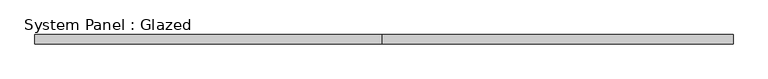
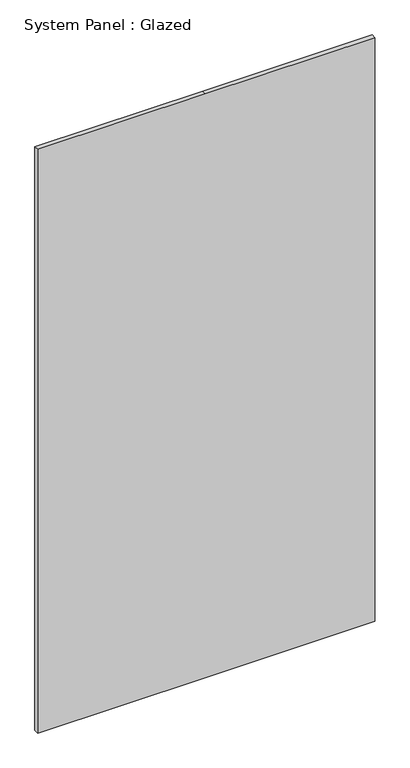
"""IFC4 building model written with IfcOpenShell, lengths in millimetres: plate geometry, System Panel : Glazed."""

from ifc_helpers import new_model, si_unit, frame, origin, place, context, project, spatial, polyline, outline, extrude, source, transform, mapped, element, save


def system_panel_glazed_1df0f2fd(model_context):
    return source(origin(), model_context, "Body", "SweptSolid", [
        extrude(outline(polyline([(0.0, -939.8), (0.0, -5.2916667), (0.0, 939.8), (3437.9973635, 939.8), (3437.9973635, -5.2916667), (3437.9973635, -939.8), (0.0, -939.8)])), frame((0.0, -44.45, 0.0), z_axis=(0.0, 1.0, 0.0), x_axis=(0.0, 0.0, 1.0)), (0.0, 0.0, 1.0), 25.4),
    ])


if __name__ == "__main__":
    model = new_model("IFC4")
    model_context = context("Model", 3, world=origin())
    ifc_project = project(units=[si_unit("LENGTHUNIT", "METRE", prefix="MILLI")], contexts=[model_context])
    site = spatial("IfcSite", under=ifc_project)
    building = spatial("IfcBuilding", under=site)
    placement = place(None, origin())
    system_panel_glazed_shape = system_panel_glazed_1df0f2fd(model_context)
    element("IfcPlate", 1, ObjectType="System Panel : Glazed", at=placement, inside=building, context=model_context, shape_type="MappedRepresentation", body=[
        mapped(system_panel_glazed_shape, transform((0.0, 0.0, 0.0), x_axis=(1.0, 0.0, 0.0), y_axis=(0.0, 1.0, 0.0), z_axis=(0.0, 0.0, 1.0))),
    ])
    save(model, "model.ifc")
